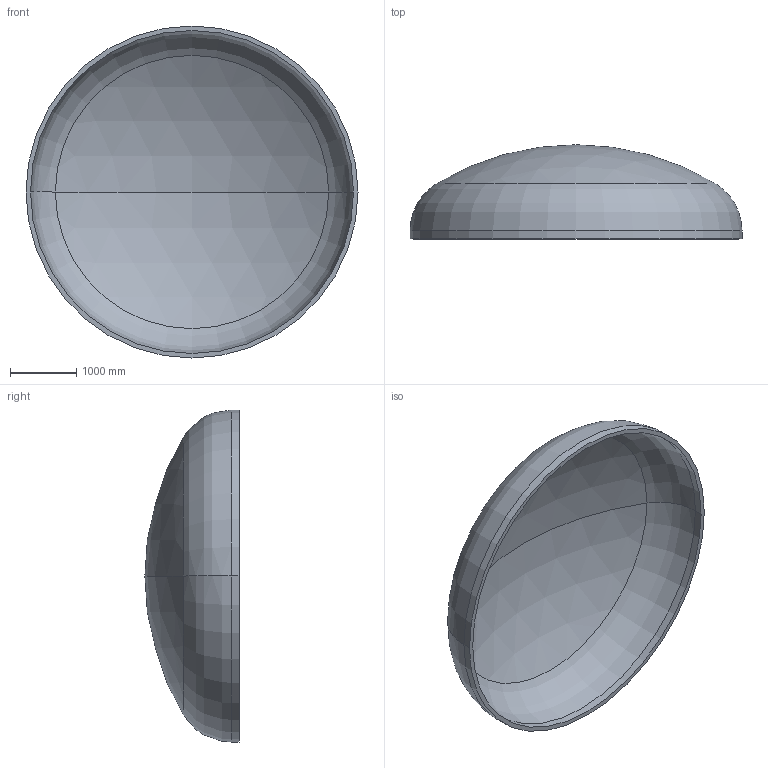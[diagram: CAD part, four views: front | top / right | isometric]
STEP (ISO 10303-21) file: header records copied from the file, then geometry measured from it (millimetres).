
FILE_DESCRIPTION (( 'STEP AP203' ), '1' );
FILE_NAME ('DIN 28013 Korbbogenform_-_Boden DIN 28013 - 5000 x 120 - I - s=68.step', '2016-07-02T00:42:45', ( '' ), ( '' ), 'SwSTEP 2.0', 'SolidWorks 2013', '' );
FILE_SCHEMA (( 'CONFIG_CONTROL_DESIGN' ));
Length unit declared in the file: millimetre
Products named in the file (1): DIN 28013 Korbbogenform_-_Boden DIN 28013 - 5000 x 120 - I - s=68
Bounding box: 5000 x 1418.41 x 5000 mm (x, y, z)
Volume: 1942698046.3 mm3; surface area: 58201456 mm2
Topology: 1 solids, 1 shells, 13 faces, 24 edges, 14 vertices
Faces by surface type: torus 4, cylinder 4, sphere 4, plane 1
Entity records: 407 total; most frequent: DIRECTION 72, CARTESIAN_POINT 52, ORIENTED_EDGE 48, AXIS2_PLACEMENT_3D 34, EDGE_CURVE 24, CIRCLE 20, EDGE_LOOP 14, VERTEX_POINT 14
